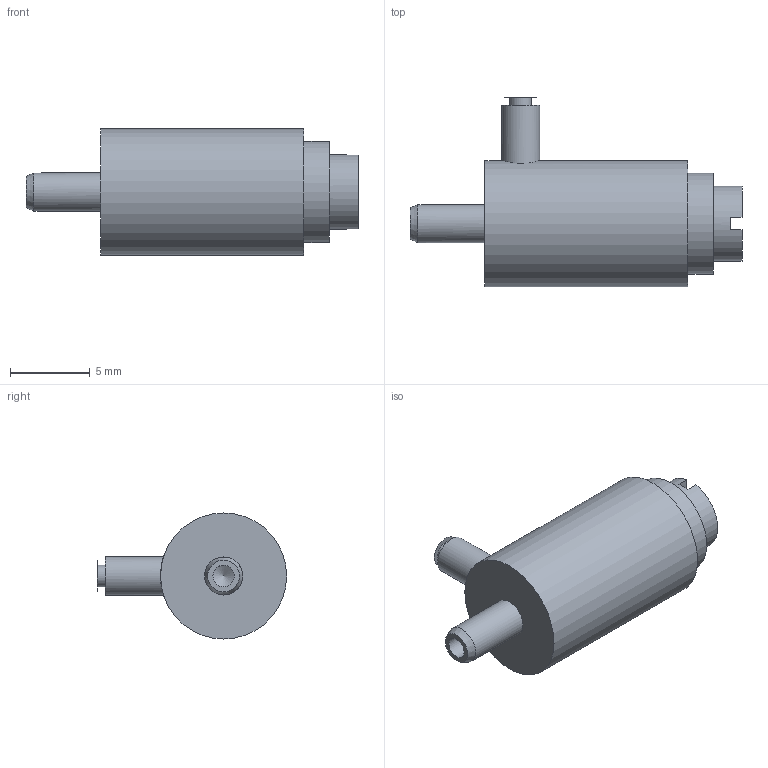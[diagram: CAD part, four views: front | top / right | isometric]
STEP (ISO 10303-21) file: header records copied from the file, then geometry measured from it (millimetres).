
FILE_DESCRIPTION(/* description */ ('SolidWorks IGES file using NURBS representation for surfaces '),/* implementation_level */ '2;1');
FILE_NAME(/* name */ 'K:\Normteile INVENTOR\Air-Logic\Needle Valves\F-2822-30.IGS.ipt.stp',/* time_stamp */ '2020-05-27T10:40:52+02:00',/* author */ ('amarsh'),/* organization */ (''),/* preprocessor_version */ 'ST-DEVELOPER v18',/* originating_system */ 'Autodesk Inventor 2020',/* authorisation */ '');
FILE_SCHEMA (('AUTOMOTIVE_DESIGN { 1 0 10303 214 3 1 1 }'));
Length unit declared in the file: millimetre
Products named in the file (1): F-2822-30.IGS
Bounding box: 20.85 x 11.89 x 7.92 mm (x, y, z)
Volume: 728.2 mm3; surface area: 628.6 mm2
Topology: 2 solids, 2 shells, 22 faces, 60 edges, 45 vertices
Faces by surface type: plane 11, cylinder 7, cone 4
Full cylindrical faces by diameter (mm): 1.35 x2, 2.39 x2, 4.7 x1, 6.35 x1, 7.92 x1
Entity records: 811 total; most frequent: CARTESIAN_POINT 161, DIRECTION 139, ORIENTED_EDGE 116, AXIS2_PLACEMENT_3D 60, EDGE_CURVE 58, VERTEX_POINT 45, CIRCLE 37, EDGE_LOOP 27
